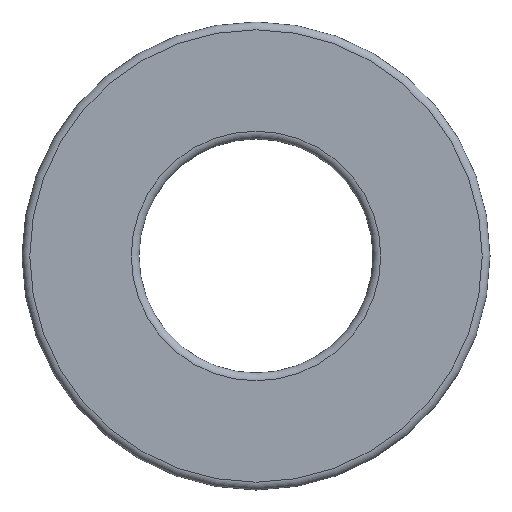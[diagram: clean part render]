
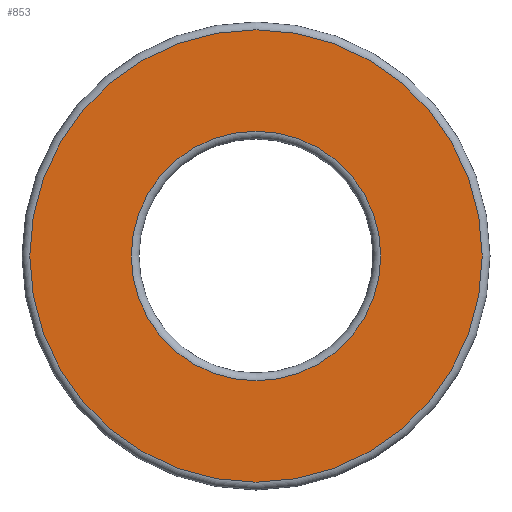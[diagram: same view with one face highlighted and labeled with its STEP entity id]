
A CAD part, front view. The second image highlights one B-rep face of the part: STEP entity #853.
In plain terms, the highlighted planar face has unit normal (0, -1, 0).
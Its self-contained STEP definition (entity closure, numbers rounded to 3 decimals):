
#119=PLANE('',#940);
#157=FACE_BOUND('',#328,.T.);
#249=FACE_OUTER_BOUND('',#327,.T.);
#327=EDGE_LOOP('',(#712));
#328=EDGE_LOOP('',(#713));
#464=CIRCLE('',#939,29.);
#465=CIRCLE('',#941,16.);
#541=VERTEX_POINT('',#1431);
#542=VERTEX_POINT('',#1434);
#619=EDGE_CURVE('',#541,#541,#464,.T.);
#620=EDGE_CURVE('',#542,#542,#465,.T.);
#712=ORIENTED_EDGE('',*,*,#619,.F.);
#713=ORIENTED_EDGE('',*,*,#620,.F.);
#853=ADVANCED_FACE('',(#249,#157),#119,.T.);
#939=AXIS2_PLACEMENT_3D('',#1432,#1134,#1135);
#940=AXIS2_PLACEMENT_3D('',#1433,#1136,#1137);
#941=AXIS2_PLACEMENT_3D('',#1435,#1138,#1139);
#1134=DIRECTION('center_axis',(0.,1.,0.));
#1135=DIRECTION('ref_axis',(-1.,0.,0.));
#1136=DIRECTION('center_axis',(0.,-1.,0.));
#1137=DIRECTION('ref_axis',(0.,0.,-1.));
#1138=DIRECTION('center_axis',(0.,-1.,0.));
#1139=DIRECTION('ref_axis',(-1.,0.,0.));
#1431=CARTESIAN_POINT('',(29.,-10.5,0.));
#1432=CARTESIAN_POINT('Origin',(0.,-10.5,0.));
#1433=CARTESIAN_POINT('Origin',(15.,-10.5,0.));
#1434=CARTESIAN_POINT('',(16.,-10.5,0.));
#1435=CARTESIAN_POINT('Origin',(0.,-10.5,0.));
